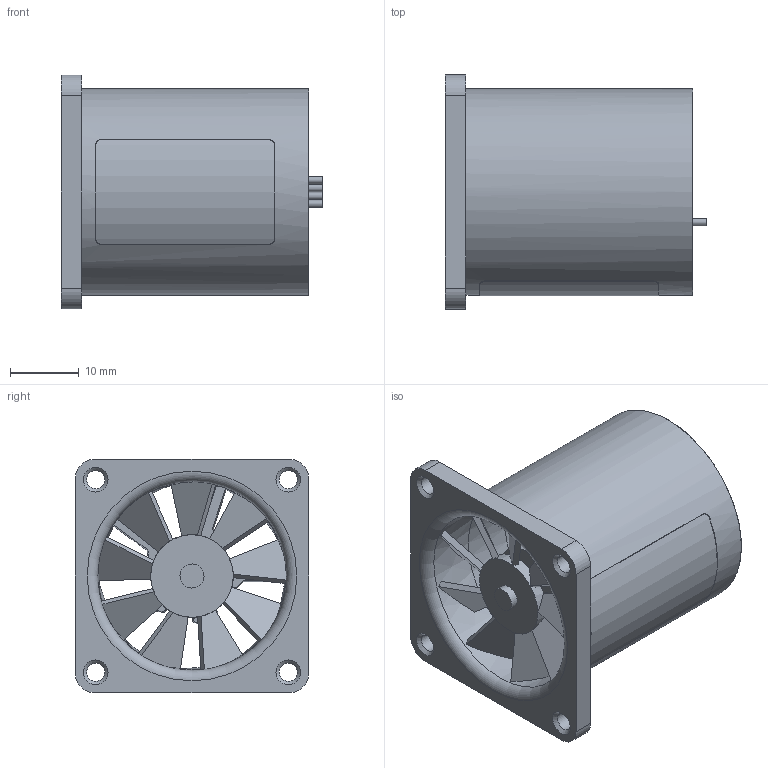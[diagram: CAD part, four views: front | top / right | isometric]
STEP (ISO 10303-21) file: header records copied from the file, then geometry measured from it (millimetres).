
FILE_DESCRIPTION(/* description */ (''),/* implementation_level */ '2;1');
FILE_NAME(/* name */ 'Fan D304P-006KH-4.stp',/* time_stamp */ '2020-07-03T09:29:47+02:00',/* author */ (''),/* organization */ (''),/* preprocessor_version */ 'ST-DEVELOPER v16',/* originating_system */ 'SIEMENS PLM Software NX 11.0',/* authorisation */ '');
FILE_SCHEMA (('AUTOMOTIVE_DESIGN { 1 0 10303 214 3 1 1 1 }'));
Length unit declared in the file: millimetre
Products named in the file (1): 015797_1-Fan D304P-006KH-4 _-_
Bounding box: 38 x 34 x 34 mm (x, y, z)
Volume: 10340.1 mm3; surface area: 11733.6 mm2
Topology: 1 solids, 1 shells, 178 faces, 513 edges, 338 vertices
Faces by surface type: plane 121, cylinder 30, cone 15, bspline 10, torus 2
Full cylindrical faces by diameter (mm): 1.05 x4, 1.25 x2, 1.5 x1, 2.5 x1, 2.6 x4, 3.5 x2, 5 x1, 12 x2, 27.3 x1, 30 x1
Entity records: 7232 total; most frequent: CARTESIAN_POINT 2533, ORIENTED_EDGE 932, DIRECTION 911, EDGE_CURVE 466, AXIS2_PLACEMENT_3D 345, VERTEX_POINT 329, EDGE_LOOP 249, LINE 221
